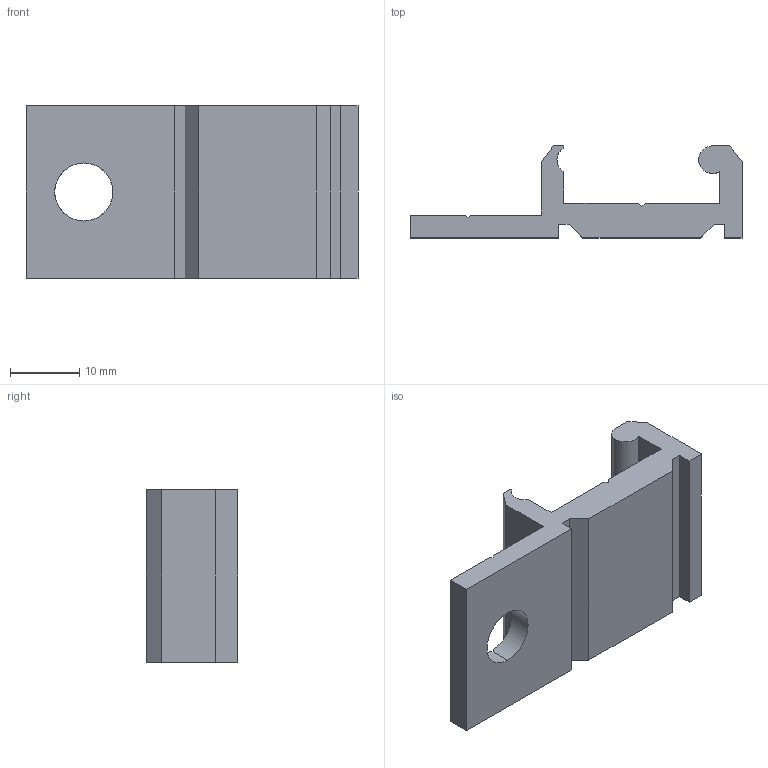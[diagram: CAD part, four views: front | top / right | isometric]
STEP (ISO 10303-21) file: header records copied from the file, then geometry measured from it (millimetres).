
FILE_DESCRIPTION (( 'STEP AP214' ), '1' );
FILE_NAME ('FGRC 20.step', '2017-04-05T07:39:17', ( '' ), ( '' ), 'SwSTEP 2.0', 'SolidWorks 2015', '' );
FILE_SCHEMA (( 'AUTOMOTIVE_DESIGN' ));
Length unit declared in the file: millimetre
Products named in the file (1): FGRC 20
Bounding box: 48 x 13.3 x 25 mm (x, y, z)
Volume: 6192.9 mm3; surface area: 4197.7 mm2
Topology: 1 solids, 1 shells, 37 faces, 106 edges, 70 vertices
Faces by surface type: plane 31, cylinder 6
Entity records: 1234 total; most frequent: CARTESIAN_POINT 226, ORIENTED_EDGE 212, DIRECTION 190, EDGE_CURVE 106, VECTOR 90, LINE 90, VERTEX_POINT 70, AXIS2_PLACEMENT_3D 50
